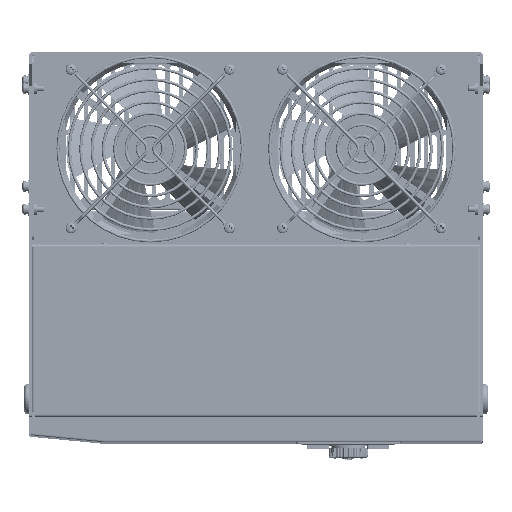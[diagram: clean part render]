
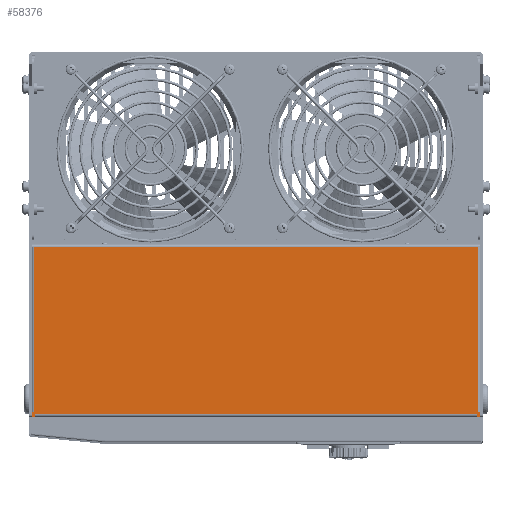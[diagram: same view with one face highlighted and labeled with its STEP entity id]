
A CAD part, top view. The second image highlights one B-rep face of the part: STEP entity #58376.
In plain terms, the highlighted planar face has unit normal (0, 0, 1).
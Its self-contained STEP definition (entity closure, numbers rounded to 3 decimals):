
#49782=DIRECTION('',(1.,0.,0.));
#49783=VECTOR('',#49782,293.6);
#49784=CARTESIAN_POINT('',(-146.8,22.7,369.75));
#49785=LINE('',#49784,#49783);
#49798=DIRECTION('',(0.,1.,0.));
#49799=VECTOR('',#49798,3.);
#49800=CARTESIAN_POINT('',(-148.5,132.2,369.75));
#49801=LINE('',#49800,#49799);
#49802=DIRECTION('',(1.,0.,0.));
#49803=VECTOR('',#49802,2.);
#49804=CARTESIAN_POINT('',(-148.5,135.2,369.75));
#49805=LINE('',#49804,#49803);
#49806=DIRECTION('',(0.,-1.,0.));
#49807=VECTOR('',#49806,1.7);
#49808=CARTESIAN_POINT('',(-146.5,135.2,369.75));
#49809=LINE('',#49808,#49807);
#49810=DIRECTION('',(1.,0.,0.));
#49811=VECTOR('',#49810,2.);
#49812=CARTESIAN_POINT('',(146.5,135.2,369.75));
#49813=LINE('',#49812,#49811);
#49814=DIRECTION('',(0.,-1.,0.));
#49815=VECTOR('',#49814,3.);
#49816=CARTESIAN_POINT('',(148.5,135.2,369.75));
#49817=LINE('',#49816,#49815);
#49818=DIRECTION('',(-1.,0.,0.));
#49819=VECTOR('',#49818,1.7);
#49820=CARTESIAN_POINT('',(148.5,132.2,369.75));
#49821=LINE('',#49820,#49819);
#49834=DIRECTION('',(1.,0.,0.));
#49835=VECTOR('',#49834,1.7);
#49836=CARTESIAN_POINT('',(-148.5,132.2,369.75));
#49837=LINE('',#49836,#49835);
#49918=DIRECTION('',(0.,-1.,0.));
#49919=VECTOR('',#49918,109.5);
#49920=CARTESIAN_POINT('',(-146.8,132.2,369.75));
#49921=LINE('',#49920,#49919);
#50006=DIRECTION('',(0.,1.,0.));
#50007=VECTOR('',#50006,109.5);
#50008=CARTESIAN_POINT('',(146.8,22.7,369.75));
#50009=LINE('',#50008,#50007);
#50108=DIRECTION('',(0.,-1.,0.));
#50109=VECTOR('',#50108,1.7);
#50110=CARTESIAN_POINT('',(146.5,135.2,369.75));
#50111=LINE('',#50110,#50109);
#50130=DIRECTION('',(-1.,0.,0.));
#50131=VECTOR('',#50130,293.);
#50132=CARTESIAN_POINT('',(146.5,133.5,369.75));
#50133=LINE('',#50132,#50131);
#51692=CARTESIAN_POINT('',(-146.8,22.7,369.75));
#51693=CARTESIAN_POINT('',(146.8,22.7,369.75));
#51694=VERTEX_POINT('',#51692);
#51695=VERTEX_POINT('',#51693);
#51698=CARTESIAN_POINT('',(-148.5,132.2,369.75));
#51699=CARTESIAN_POINT('',(-148.5,135.2,369.75));
#51700=VERTEX_POINT('',#51698);
#51701=VERTEX_POINT('',#51699);
#51702=CARTESIAN_POINT('',(-146.5,135.2,369.75));
#51703=VERTEX_POINT('',#51702);
#51704=CARTESIAN_POINT('',(-146.5,133.5,369.75));
#51705=VERTEX_POINT('',#51704);
#51706=CARTESIAN_POINT('',(146.5,133.5,369.75));
#51707=VERTEX_POINT('',#51706);
#51708=CARTESIAN_POINT('',(146.5,135.2,369.75));
#51709=VERTEX_POINT('',#51708);
#51710=CARTESIAN_POINT('',(148.5,135.2,369.75));
#51711=VERTEX_POINT('',#51710);
#51712=CARTESIAN_POINT('',(148.5,132.2,369.75));
#51713=VERTEX_POINT('',#51712);
#51714=CARTESIAN_POINT('',(146.8,132.2,369.75));
#51715=VERTEX_POINT('',#51714);
#51716=CARTESIAN_POINT('',(-146.8,132.2,369.75));
#51717=VERTEX_POINT('',#51716);
#58346=CARTESIAN_POINT('',(148.5,21.,369.75));
#58347=DIRECTION('',(0.,0.,1.));
#58348=DIRECTION('',(1.,0.,0.));
#58349=AXIS2_PLACEMENT_3D('',#58346,#58347,#58348);
#58350=PLANE('',#58349);
#58352=ORIENTED_EDGE('',*,*,#58351,.T.);
#58354=ORIENTED_EDGE('',*,*,#58353,.T.);
#58356=ORIENTED_EDGE('',*,*,#58355,.T.);
#58358=ORIENTED_EDGE('',*,*,#58357,.F.);
#58360=ORIENTED_EDGE('',*,*,#58359,.F.);
#58362=ORIENTED_EDGE('',*,*,#58361,.T.);
#58364=ORIENTED_EDGE('',*,*,#58363,.T.);
#58366=ORIENTED_EDGE('',*,*,#58365,.T.);
#58368=ORIENTED_EDGE('',*,*,#58367,.F.);
#58369=ORIENTED_EDGE('',*,*,#58326,.F.);
#58371=ORIENTED_EDGE('',*,*,#58370,.F.);
#58373=ORIENTED_EDGE('',*,*,#58372,.F.);
#58374=EDGE_LOOP('',(#58352,#58354,#58356,#58358,#58360,#58362,#58364,#58366,
#58368,#58369,#58371,#58373));
#58375=FACE_OUTER_BOUND('',#58374,.F.);
#58326=EDGE_CURVE('',#51694,#51695,#49785,.T.);
#58351=EDGE_CURVE('',#51700,#51701,#49801,.T.);
#58353=EDGE_CURVE('',#51701,#51703,#49805,.T.);
#58355=EDGE_CURVE('',#51703,#51705,#49809,.T.);
#58357=EDGE_CURVE('',#51707,#51705,#50133,.T.);
#58359=EDGE_CURVE('',#51709,#51707,#50111,.T.);
#58361=EDGE_CURVE('',#51709,#51711,#49813,.T.);
#58363=EDGE_CURVE('',#51711,#51713,#49817,.T.);
#58365=EDGE_CURVE('',#51713,#51715,#49821,.T.);
#58367=EDGE_CURVE('',#51695,#51715,#50009,.T.);
#58370=EDGE_CURVE('',#51717,#51694,#49921,.T.);
#58372=EDGE_CURVE('',#51700,#51717,#49837,.T.);
#58376=ADVANCED_FACE('',(#58375),#58350,.T.);
